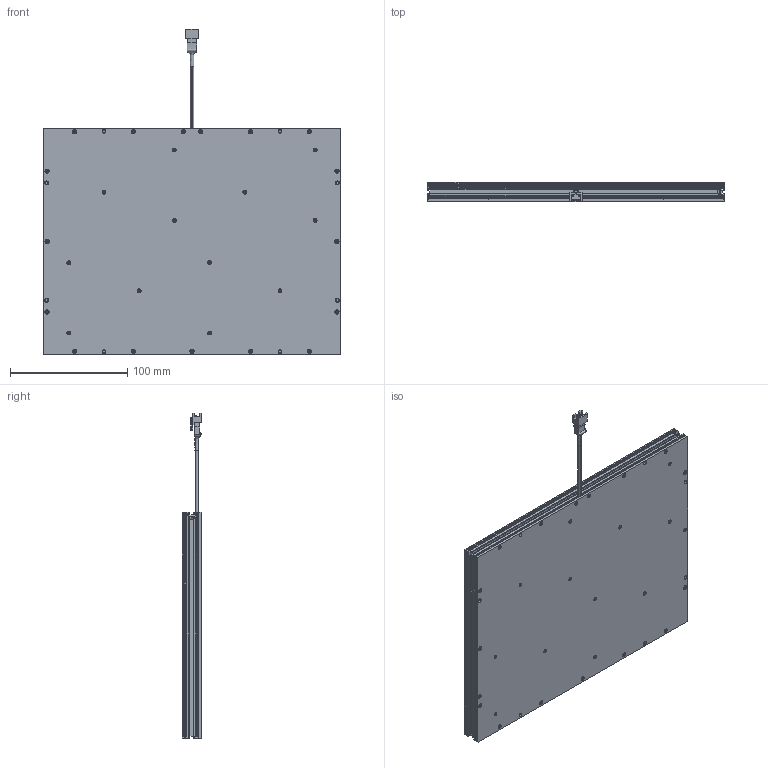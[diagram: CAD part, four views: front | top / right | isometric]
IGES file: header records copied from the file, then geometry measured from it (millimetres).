
Start section: SolidWorks IGES file using analytic representation for surfaces
Global section: file name: C:\Users\user\Downloads\TEMP_STEP\VDFP-240180_Drawing_L1192A-A00100.IGS; native system: SolidWorks 2018; preprocessor: SolidWorks 2018; author: user; date: 231221.085217; units: millimetre
Bounding box: 253 x 16.55 x 277.45 mm (x, y, z)
Surface area: 185679.1 mm2 (no closed solid volume)
Topology: 0 solids, 0 shells, 715 faces, 8414 edges, 8414 vertices
Faces by surface type: bspline 429, revolution 286
